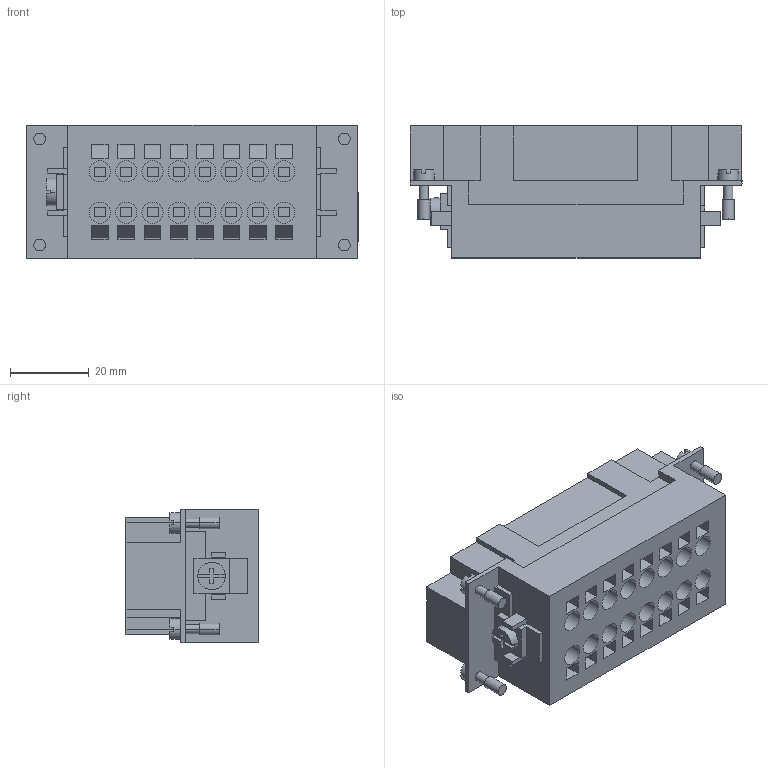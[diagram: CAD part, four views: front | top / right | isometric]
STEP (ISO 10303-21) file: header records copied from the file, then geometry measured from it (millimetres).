
FILE_DESCRIPTION (( 'STEP AP203' ), '1' );
FILE_NAME ('352260.STEP', '2025-06-27T08:22:51', ( '' ), ( '' ), 'SwSTEP 2.0', 'SolidWorks 2018', '' );
FILE_SCHEMA (( 'CONFIG_CONTROL_DESIGN' ));
Length unit declared in the file: millimetre
Products named in the file (1): 352260
Bounding box: 84.5 x 33.6 x 34 mm (x, y, z)
Volume: 50886.3 mm3; surface area: 22197.2 mm2
Topology: 1 solids, 1 shells, 549 faces, 1404 edges, 920 vertices
Faces by surface type: plane 393, cylinder 124, sphere 32
Entity records: 16139 total; most frequent: CARTESIAN_POINT 2778, DIRECTION 2756, ORIENTED_EDGE 2680, EDGE_CURVE 1340, VECTOR 1024, LINE 1024, VERTEX_POINT 888, AXIS2_PLACEMENT_3D 866
